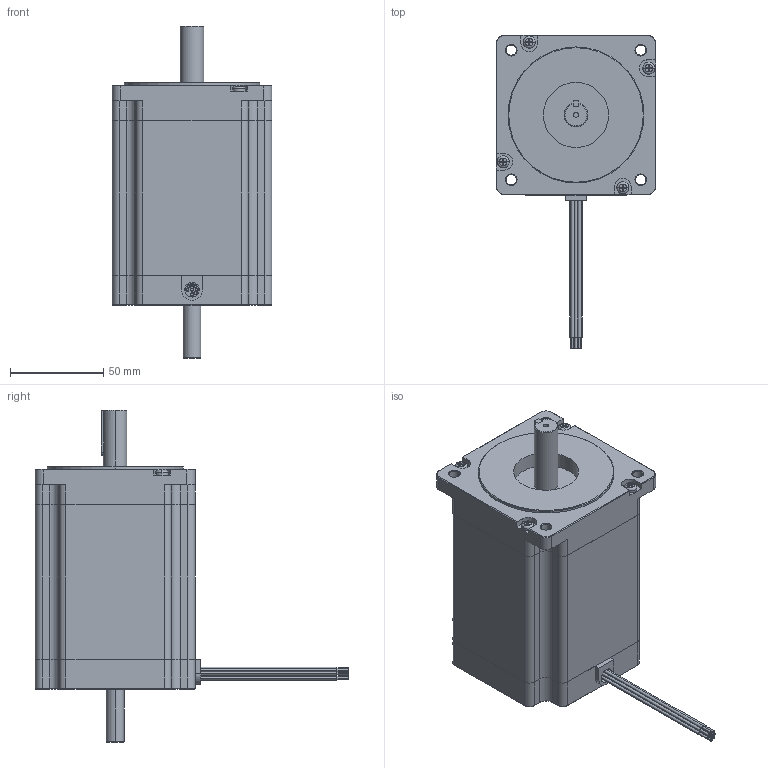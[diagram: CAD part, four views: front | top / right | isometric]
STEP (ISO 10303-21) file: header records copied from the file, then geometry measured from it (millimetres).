
FILE_DESCRIPTION (( 'STEP AP214' ), '1' );
FILE_NAME ('34Y208D-LW8.STEP', '2010-06-09T18:40:26', ( 'Tim Raines' ), ( 'Anaheim Automation' ), 'SwSTEP 2.0', 'SolidWorks 2010', '' );
FILE_SCHEMA (( 'AUTOMOTIVE_DESIGN' ));
Length unit declared in the file: inch
Products named in the file (1): 34Y208D-LW8
Bounding box: 85.85 x 168.4 x 178.31 mm (x, y, z)
Volume: 800015.9 mm3; surface area: 62098 mm2
Topology: 1 solids, 1 shells, 378 faces, 949 edges, 598 vertices
Faces by surface type: plane 178, cylinder 129, cone 63, torus 8
Entity records: 16151 total; most frequent: CARTESIAN_POINT 2207, DIRECTION 1965, ORIENTED_EDGE 1874, EDGE_CURVE 937, AXIS2_PLACEMENT_3D 710, VERTEX_POINT 598, VECTOR 545, LINE 545
